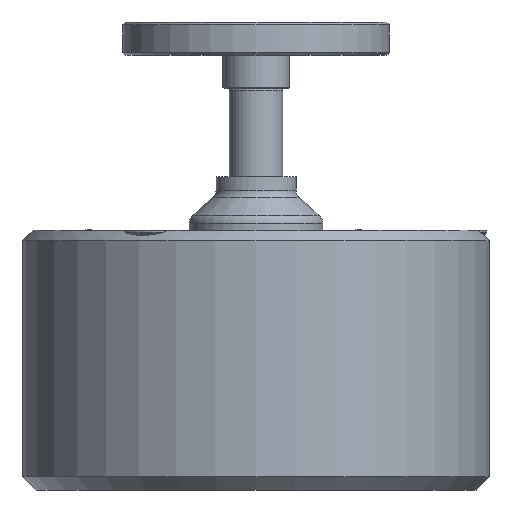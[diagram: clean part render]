
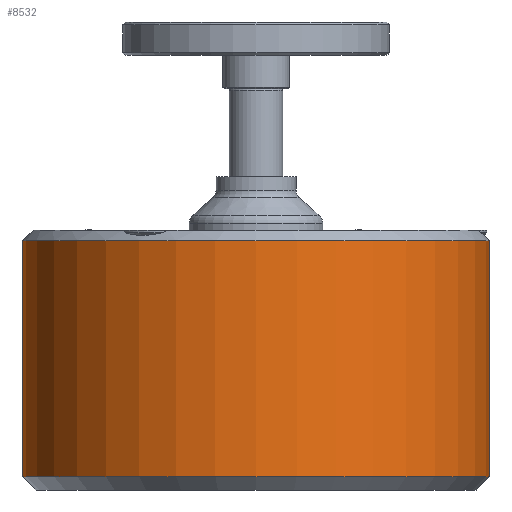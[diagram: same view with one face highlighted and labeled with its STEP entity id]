
A CAD part, left-side view. The second image highlights one B-rep face of the part: STEP entity #8532.
In plain terms, the highlighted cylindrical face has radius 17.5 mm (diameter 35 mm), a full revolution.
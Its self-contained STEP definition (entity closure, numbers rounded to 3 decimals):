
#34=FACE_BOUND('',#1354,.T.);
#854=FACE_OUTER_BOUND('',#1353,.T.);
#1353=EDGE_LOOP('',(#7493,#7494,#7495,#7496));
#1354=EDGE_LOOP('',(#7497));
#1557=CIRCLE('',#9121,17.5);
#1591=CIRCLE('',#9164,17.5);
#2136=B_SPLINE_CURVE_WITH_KNOTS('',3,(#33830,#33831,#33832,#33833,#33834,
#33835,#33836,#33837,#33838,#33839,#33840,#33841,#33842,#33843,#33844,#33845,
#33846,#33847),.UNSPECIFIED.,.T.,.F.,(4,1,1,1,1,1,1,1,1,1,1,1,1,1,1,4),
(-0.965,-0.896,-0.827,-0.758,
-0.689,-0.655,-0.62,-0.586,
-0.551,-0.414,-0.379,-0.345,
-0.276,-0.138,-0.069,0.),
 .UNSPECIFIED.);
#2493=LINE('',#34043,#2893);
#2893=VECTOR('',#10678,17.5);
#3714=VERTEX_POINT('',#33724);
#3718=VERTEX_POINT('',#33828);
#3753=VERTEX_POINT('',#34041);
#4968=EDGE_CURVE('',#3714,#3714,#1557,.T.);
#4974=EDGE_CURVE('',#3718,#3718,#2136,.T.);
#5016=EDGE_CURVE('',#3753,#3753,#1591,.T.);
#5017=EDGE_CURVE('',#3753,#3714,#2493,.T.);
#7493=ORIENTED_EDGE('',*,*,#5016,.F.);
#7494=ORIENTED_EDGE('',*,*,#5017,.T.);
#7495=ORIENTED_EDGE('',*,*,#4968,.F.);
#7496=ORIENTED_EDGE('',*,*,#5017,.F.);
#7497=ORIENTED_EDGE('',*,*,#4974,.F.);
#8123=CYLINDRICAL_SURFACE('',#9163,17.5);
#8532=ADVANCED_FACE('',(#854,#34),#8123,.T.);
#9121=AXIS2_PLACEMENT_3D('',#33726,#10584,#10585);
#9163=AXIS2_PLACEMENT_3D('',#34040,#10674,#10675);
#9164=AXIS2_PLACEMENT_3D('',#34042,#10676,#10677);
#10584=DIRECTION('center_axis',(0.,0.,-1.));
#10585=DIRECTION('ref_axis',(1.,0.,0.));
#10674=DIRECTION('center_axis',(0.,0.,1.));
#10675=DIRECTION('ref_axis',(1.,0.,0.));
#10676=DIRECTION('center_axis',(0.,0.,1.));
#10677=DIRECTION('ref_axis',(1.,0.,0.));
#10678=DIRECTION('',(0.,0.,-1.));
#33724=CARTESIAN_POINT('',(-17.5,0.,-4.5));
#33726=CARTESIAN_POINT('Origin',(0.,0.,-4.5));
#33828=CARTESIAN_POINT('',(17.386,1.998,-2.));
#33830=CARTESIAN_POINT('Ctrl Pts',(17.386,1.998,-2.));
#33831=CARTESIAN_POINT('Ctrl Pts',(17.386,1.998,-1.713));
#33832=CARTESIAN_POINT('Ctrl Pts',(17.403,1.851,-1.091));
#33833=CARTESIAN_POINT('Ctrl Pts',(17.457,1.299,-0.389));
#33834=CARTESIAN_POINT('Ctrl Pts',(17.502,0.439,0.019));
#33835=CARTESIAN_POINT('Ctrl Pts',(17.502,-0.294,
0.014));
#33836=CARTESIAN_POINT('Ctrl Pts',(17.48,-0.879,
-0.184));
#33837=CARTESIAN_POINT('Ctrl Pts',(17.456,-1.265,-0.435));
#33838=CARTESIAN_POINT('Ctrl Pts',(17.431,-1.568,-0.736));
#33839=CARTESIAN_POINT('Ctrl Pts',(17.381,-2.064,-1.525));
#33840=CARTESIAN_POINT('Ctrl Pts',(17.38,-2.066,-2.479));
#33841=CARTESIAN_POINT('Ctrl Pts',(17.431,-1.572,-3.263));
#33842=CARTESIAN_POINT('Ctrl Pts',(17.463,-1.167,-3.669));
#33843=CARTESIAN_POINT('Ctrl Pts',(17.521,-0.179,
-4.169));
#33844=CARTESIAN_POINT('Ctrl Pts',(17.477,1.107,-3.85));
#33845=CARTESIAN_POINT('Ctrl Pts',(17.401,1.858,-2.906));
#33846=CARTESIAN_POINT('Ctrl Pts',(17.386,1.998,-2.287));
#33847=CARTESIAN_POINT('Ctrl Pts',(17.386,1.998,-2.));
#34040=CARTESIAN_POINT('Origin',(0.,0.,11.));
#34041=CARTESIAN_POINT('',(-17.5,0.,13.2));
#34042=CARTESIAN_POINT('Origin',(0.,0.,13.2));
#34043=CARTESIAN_POINT('',(-17.5,0.,11.));
